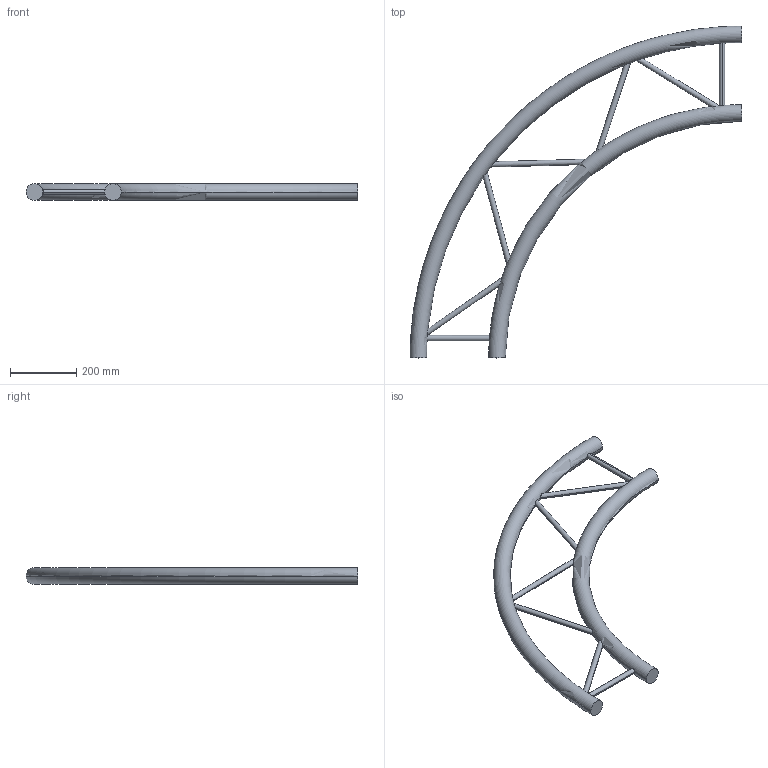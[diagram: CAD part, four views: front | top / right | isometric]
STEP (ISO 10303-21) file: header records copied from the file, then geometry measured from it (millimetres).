
FILE_DESCRIPTION (( 'STEP AP203' ), '1' );
FILE_NAME ('EXC29200H.STEP', '2009-10-26T09:33:45', ( 'CEDIA' ), ( 'CEDIA INDUSTRIE' ), 'SwSTEP 2.0', 'SolidWorks 2009', '' );
FILE_SCHEMA (( 'CONFIG_CONTROL_DESIGN' ));
Length unit declared in the file: millimetre
Products named in the file (1): EXC29200H
Bounding box: 1000 x 1000 x 50 mm (x, y, z)
Volume: 5627876.2 mm3; surface area: 513176.1 mm2
Topology: 1 solids, 1 shells, 22 faces, 73 edges, 41 vertices
Faces by surface type: cylinder 14, torus 4, plane 4
Entity records: 2113 total; most frequent: CARTESIAN_POINT 1441, ORIENTED_EDGE 146, DIRECTION 110, EDGE_CURVE 73, AXIS2_PLACEMENT_3D 48, VERTEX_POINT 41, B_SPLINE_CURVE_WITH_KNOTS 32, CIRCLE 25
